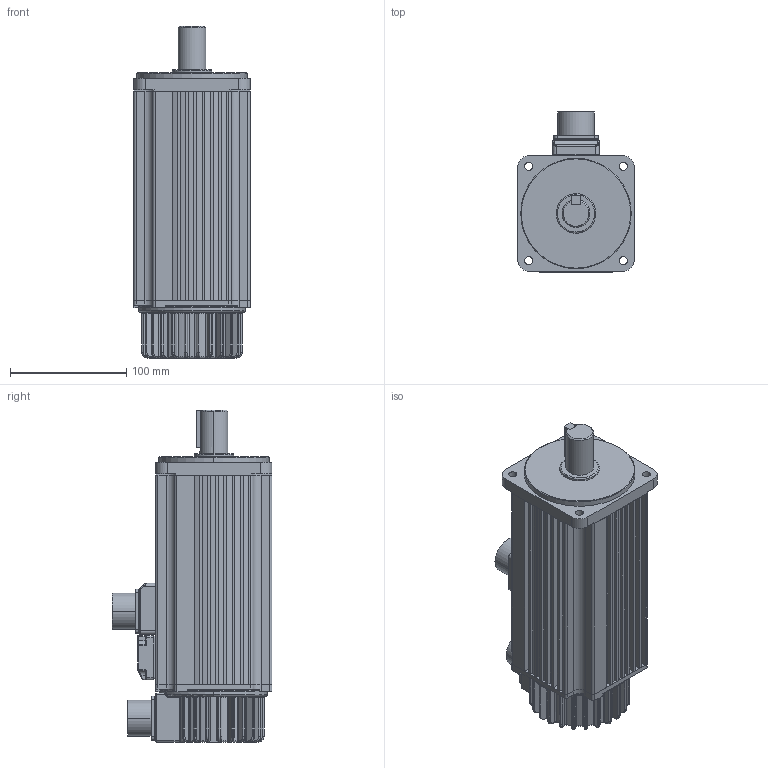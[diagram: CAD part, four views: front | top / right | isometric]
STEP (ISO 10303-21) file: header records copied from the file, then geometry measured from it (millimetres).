
FILE_DESCRIPTION (( 'STEP AP214' ), '1' );
FILE_NAME ('ISMH2-15C30CD-U234Y.STEP', '2017-06-29T05:48:25', ( 'inovance' ), ( '' ), 'SwSTEP 2.0', 'SolidWorks 2016', '' );
FILE_SCHEMA (( 'AUTOMOTIVE_DESIGN' ));
Length unit declared in the file: millimetre
Products named in the file (1): ISMH2-15C30CD-U234Y
Bounding box: 100 x 137.5 x 285.5 mm (x, y, z)
Volume: 1970865.5 mm3; surface area: 272861.8 mm2
Topology: 14 solids, 14 shells, 1210 faces, 3040 edges, 1828 vertices
Faces by surface type: cylinder 556, plane 297, torus 236, sphere 105, bspline 11, cone 5
Entity records: 49536 total; most frequent: CARTESIAN_POINT 6840, DIRECTION 6800, ORIENTED_EDGE 5754, EDGE_CURVE 2877, AXIS2_PLACEMENT_3D 2752, VERTEX_POINT 1741, CIRCLE 1552, EDGE_LOOP 1342
